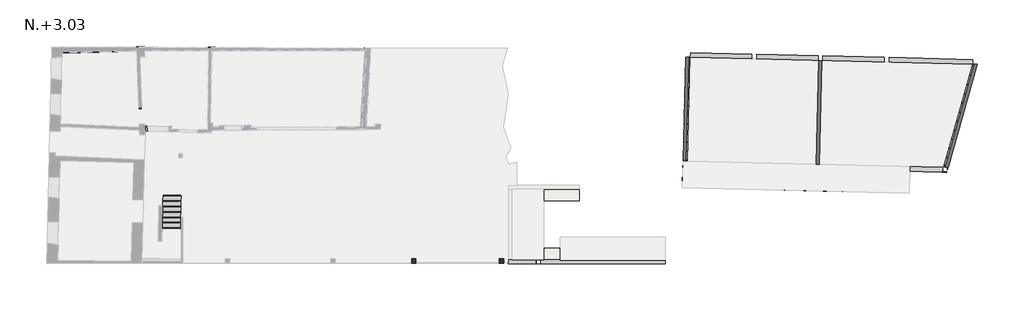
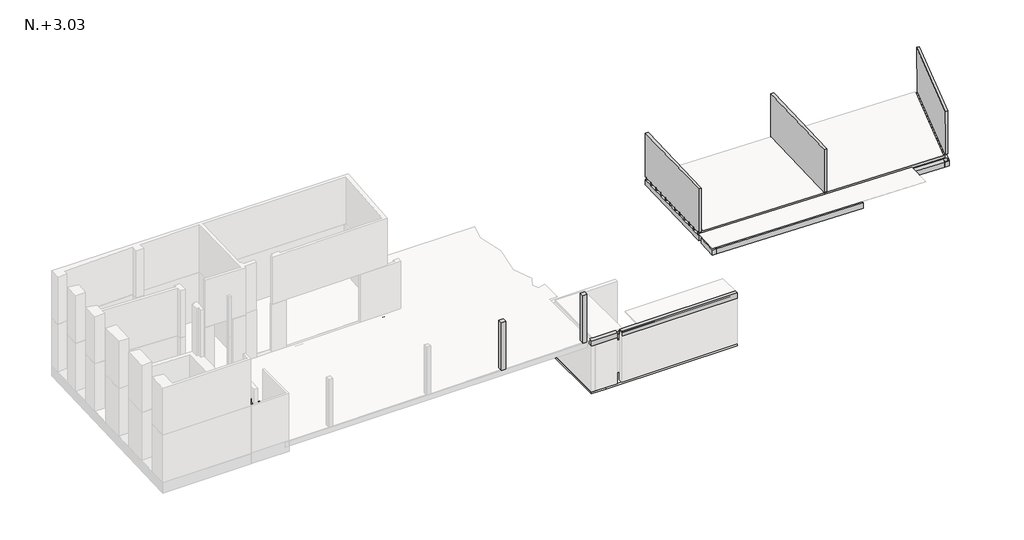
# One storey, part 2 of 2: 28 beams, 3 footings, 3 proxies, 2 columns, 1 stair flight.
"""IFC4 building model written with IfcOpenShell, lengths in millimetres."""

from ifc_helpers import new_model, si_unit, frame, origin, origin_with_axes, place, context, project, spatial, polyline, outline, extrude, faceted_brep, transform, mapped, element, save
from components import stair_flight_34b09c1e

model = new_model("IFC4")

# Units and contexts
model_context = context("Model", 3, world=origin())
ifc_project = project(units=[si_unit("LENGTHUNIT", "METRE", prefix="MILLI")], contexts=[model_context])

# Site, building, storey
site = spatial("IfcSite", under=ifc_project)
building = spatial("IfcBuilding", under=site)
storey = spatial("IfcBuildingStorey", under=building, Name="N.+3.03", Elevation=0.0)

# Beams
placement = place(None, origin())
element("IfcBeam", 1, ObjectType="M_Hormigón-Viga rectangular : VG-104.(25X30)", at=placement, inside=storey, context=model_context, shape_type="SweptSolid", body=[
    extrude(outline(polyline([(25302.2053798, 3850.4173044), (25502.2053798, 3850.4173044), (25502.2053798, 247.1625283), (25302.2053798, 247.1625283), (25302.2053798, 3850.4173044)])), frame((0.0, 0.0, -300.0), z_axis=(0.0, 0.0, 1.0), x_axis=(1.0, 0.0, 0.0)), (0.0, 0.0, 1.0), 200.0),
])
element("IfcBeam", 2, ObjectType="M_Hormigón-Viga rectangular : VG-102.(25X30)", at=placement, inside=storey, context=model_context, shape_type="SweptSolid", body=[
    extrude(outline(polyline([(25279.5548544, 202.4278622), (25279.5548544, -2.5721378), (23848.883946, -2.5721378), (23848.883946, 202.4278622), (25279.5548544, 202.4278622)])), frame((0.0, 0.0, -300.0), z_axis=(0.0, 0.0, 1.0), x_axis=(1.0, 0.0, 0.0)), (0.0, 0.0, 1.0), 300.0),
])
element("IfcBeam", 3, ObjectType="M_Hormigón-Viga rectangular : VG-102.(25X30)", at=placement, inside=storey, context=model_context, shape_type="SweptSolid", body=[
    extrude(outline(polyline([(196.7471083, 0.0), (196.7471083, -300.0), (194.2471083, -300.0), (194.2471083, -80.0), (-5.7528917, -80.0), (-5.7528917, -300.0), (-8.2528917, -300.0), (-8.2528917, 0.0), (196.7471083, 0.0)])), frame((25521.8899375, 0.0, 0.0), z_axis=(1.0, 0.0, 0.0), x_axis=(0.0, 1.0, 0.0)), (0.0, 0.0, 1.0), 6436.5642972),
])
element("IfcBeam", 4, ObjectType="Concrete-Rectangular Beam : VC-101(48X60)", at=placement, inside=storey, context=model_context, shape_type="Brep", body=[
    faceted_brep([(16718.8356546, 10664.9129167, 0.0), (16721.0421534, 11144.9078452, 0.0), (276.7725886, 11220.5008547, 0.0), (805.0367452, 10738.0673945, 0.0), (16718.8356546, 10664.9129167, -600.0), (805.0368088, 10738.0673942, -600.0), (16721.0421534, 11144.9078452, -600.0), (276.7726522, 11220.5008544, -600.0)], [[[0, 1, 2, 3]], [[4, 0, 3, 5]], [[6, 4, 5, 7]], [[1, 6, 7, 2]], [[1, 0, 4, 6]], [[2, 7, 5, 3]]]),
])
element("IfcBeam", 5, ObjectType="Concrete-Rectangular Beam : VC-106(41X60)", at=placement, inside=storey, context=model_context, shape_type="Brep", body=[
    faceted_brep([(4786.4012665, 7296.2895543, 0.0), (4799.8150795, 7279.1544178, 0.0), (5214.7123214, 6749.1544178, 0.0), (5215.2135312, 6748.51416, 0.0), (5215.1918183, 6749.1544178, 0.0), (5197.2180635, 7279.1544178, 0.0), (5064.3025356, 11198.4929573, 0.0), (4654.0028748, 11200.3790725, 0.0), (4786.4012643, 7296.2896197, -600.0), (4654.0028748, 11200.3790725, -600.0), (5215.2135289, 6748.5142254, -600.0), (5214.7123704, 6749.1544178, -600.0), (4799.8151285, 7279.1544178, -600.0), (5064.3025356, 11198.4929573, -600.0), (5197.2180635, 7279.1544178, -600.0), (5215.1918183, 6749.1544178, -600.0)], [[[0, 1, 2, 3, 4, 5, 6, 7]], [[8, 0, 7, 9]], [[10, 11, 12, 8, 9, 13, 14, 15]], [[3, 10, 15, 14, 13, 6, 5, 4]], [[7, 6, 13, 9]], [[3, 2, 1, 0, 8, 12, 11, 10]]]),
])
element("IfcBeam", 6, ObjectType="Concrete-Rectangular Beam : VC-107(41X60)", at=placement, inside=storey, context=model_context, shape_type="SweptSolid", body=[
    extrude(outline(polyline([(8693.7203401, 6749.1544178), (8283.6850677, 6749.1544178), (8341.8514519, 11183.4263236), (8751.8620007, 11181.5415375), (8693.7203401, 6749.1544178)])), frame((0.0, 0.0, -600.0), z_axis=(0.0, 0.0, 1.0), x_axis=(1.0, 0.0, 0.0)), (0.0, 0.0, 1.0), 600.0),
])
element("IfcBeam", 7, ObjectType="Concrete-Rectangular Beam : VC-108(35X60)", at=placement, inside=storey, context=model_context, shape_type="SweptSolid", body=[
    extrude(outline(polyline([(16396.619068, 11146.3991925), (16747.1320039, 11144.7879122), (16487.9387103, 6749.1544178), (16137.3307635, 6749.1544178), (16396.619068, 11146.3991925)])), frame((0.0, 0.0, -600.0), z_axis=(0.0, 0.0, 1.0), x_axis=(1.0, 0.0, 0.0)), (0.0, 0.0, 1.0), 600.0),
])
element("IfcBeam", 8, ObjectType="Concrete-Rectangular Beam : VGT-101(18X03) (EN MADERA)", at=placement, inside=storey, context=model_context, shape_type="SweptSolid", body=[
    extrude(outline(polyline([(0.0, -30.0000001), (0.0, 0.0), (14997.5858359, 0.0), (14997.5858359, -30.0), (0.0, -30.0000001)])), frame((47998.5656137, 10202.3134157, -179.9998399), z_axis=(0.0013331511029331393, -3.253150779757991e-05, 0.9999991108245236), x_axis=(-0.9997015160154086, 0.024394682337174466, 0.0013335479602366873)), (0.0, 0.0, 1.0), 180.0),
])
element("IfcBeam", 9, ObjectType="Concrete-Rectangular Beam : VGT-101(18X03) (EN MADERA)", at=placement, inside=storey, context=model_context, shape_type="SweptSolid", body=[
    extrude(outline(polyline([(14.9999999, 1e-07), (-15.0, 0.0), (-15.0, 14860.013459), (15.0, 14860.013459), (14.9999999, 1e-07)])), frame((47849.2156098, 9725.8328223, -179.999837), z_axis=(0.0013454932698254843, -3.2832680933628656e-05, 0.9999990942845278), x_axis=(0.024394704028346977, 0.9997024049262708, 0.0)), (0.0, 0.0, 1.0), 180.0),
])
element("IfcBeam", 10, ObjectType="Concrete-Rectangular Beam : VGT-101(18X03) (EN MADERA)", at=placement, inside=storey, context=model_context, shape_type="SweptSolid", body=[
    extrude(outline(polyline([(15.0, 0.0), (-15.0, -1e-07), (-15.0, 14720.0135869), (15.0, 14720.0135869), (15.0, 0.0)])), frame((47697.1800267, 9234.413297, -179.9998339), z_axis=(0.001358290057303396, -3.314494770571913e-05, 0.9999990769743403), x_axis=(0.02439470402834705, 0.9997024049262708, 0.0)), (0.0, 0.0, 1.0), 180.0),
])
element("IfcBeam", 11, ObjectType="Concrete-Rectangular Beam : VGT-101(18X03) (EN MADERA)", at=placement, inside=storey, context=model_context, shape_type="SweptSolid", body=[
    extrude(outline(polyline([(15.0, 0.0), (-14.9999999, -1e-07), (-15.0, 14580.0137173), (15.0, 14580.0137173), (15.0, 0.0)])), frame((47545.6991933, 8758.1097271, -179.9998306), z_axis=(0.001371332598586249, -3.34632113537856e-05, 0.9999990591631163), x_axis=(0.02439470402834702, 0.9997024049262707, 0.0)), (0.0, 0.0, 1.0), 180.0),
])
element("IfcBeam", 12, ObjectType="Concrete-Rectangular Beam : VGT-101(18X03) (EN MADERA)", at=placement, inside=storey, context=model_context, shape_type="SweptSolid", body=[
    extrude(outline(polyline([(15.0, 1e-07), (-14.9999999, 0.0), (-15.0, 14460.0138313), (15.0000001, 14460.0138313), (15.0, 1e-07)])), frame((47414.2707575, 8291.3168393, -179.9998278), z_axis=(0.0013827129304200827, -3.3740913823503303e-05, 0.9999990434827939), x_axis=(0.02439470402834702, 0.9997024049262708, 0.0)), (0.0, 0.0, 1.0), 180.0),
])
element("IfcBeam", 13, ObjectType="Concrete-Rectangular Beam : VGT-101(18X03) (EN MADERA)", at=placement, inside=storey, context=model_context, shape_type="SweptSolid", body=[
    extrude(outline(polyline([(15.0, 0.0), (-14.9999999, -1e-07), (-15.0, 14320.0139665), (15.0, 14320.0139665), (15.0, 0.0)])), frame((47262.8478887, 7825.011855, -179.9998244), z_axis=(0.0013962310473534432, -3.407078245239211e-05, 0.9999990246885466), x_axis=(0.024394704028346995, 0.9997024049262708, 0.0)), (0.0, 0.0, 1.0), 180.0),
])
element("IfcBeam", 14, ObjectType="Concrete-Rectangular Beam : VGT-101(18X03) (EN MADERA)", at=placement, inside=storey, context=model_context, shape_type="SweptSolid", body=[
    extrude(outline(polyline([(15.0, 0.0), (-15.0, 0.0), (-15.0, 14190.0), (15.0, 14190.0), (15.0, 0.0)])), frame((47122.6398902, 7348.2903177, -179.9998212), z_axis=(0.001409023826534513, -3.438295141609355e-05, 0.9999990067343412), x_axis=(0.02439470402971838, 0.9997024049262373, 0.0)), (0.0, 0.0, 1.0), 180.0),
])
element("IfcBeam", 15, ObjectType="Concrete-Rectangular Beam : VGT-101(18X03) (EN MADERA)", at=placement, inside=storey, context=model_context, shape_type="SweptSolid", body=[
    extrude(outline(polyline([(15.0, 0.0), (-15.0, -1e-07), (-15.0000001, 14060.0142247), (15.0, 14060.0142247), (15.0, 0.0)])), frame((46979.9964183, 6891.913987, -179.9998179), z_axis=(0.001422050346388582, -3.470082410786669e-05, 0.9999989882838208), x_axis=(0.024394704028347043, 0.9997024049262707, 0.0)), (0.0, 0.0, 1.0), 180.0),
])
element("IfcBeam", 16, ObjectType="Concrete-Rectangular Beam : VGT-101(18X03) (EN MADERA)", at=placement, inside=storey, context=model_context, shape_type="SweptSolid", body=[
    extrude(outline(polyline([(15.0, 0.0), (-15.0, 0.0), (-15.0, 13920.0143678), (15.0000001, 13920.0143678), (15.0, 0.0)])), frame((46828.329534, 6415.6149571, -179.9998142), z_axis=(0.0014363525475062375, -3.504982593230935e-05, 0.9999989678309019), x_axis=(0.024394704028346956, 0.9997024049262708, 0.0)), (0.0, 0.0, 1.0), 180.0),
])
element("IfcBeam", 17, ObjectType="Concrete-Rectangular Beam : VGT-101(18X03) (EN MADERA)", at=placement, inside=storey, context=model_context, shape_type="SweptSolid", body=[
    extrude(outline(polyline([(15.0, 1e-07), (-15.0, 0.0), (-15.0, 13800.0144928), (15.0, 13800.0144927), (15.0, 1e-07)])), frame((46696.9008984, 5948.8220742, -179.999811), z_axis=(0.0014488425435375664, -3.535460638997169e-05, 0.9999989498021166), x_axis=(0.024394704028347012, 0.9997024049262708, 0.0)), (0.0, 0.0, 1.0), 180.0),
])
element("IfcBeam", 18, ObjectType="Concrete-Rectangular Beam : VGT-101(18X03) (EN MADERA)", at=placement, inside=storey, context=model_context, shape_type="SweptSolid", body=[
    extrude(outline(polyline([(0.0, -30.0), (0.0, 0.0), (13660.0146413, 0.0), (13660.0146413, -29.9999999), (0.0, -30.0)])), frame((46545.1118695, 5467.5215597, -179.9998071), z_axis=(0.001463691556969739, -3.571695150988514e-05, 0.9999989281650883), x_axis=(-0.9997013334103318, 0.024394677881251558, 0.001464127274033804)), (0.0, 0.0, 1.0), 180.0),
])
element("IfcBeam", 19, ObjectType="Concrete-Rectangular Beam : VGT-101(18X03) (EN MADERA)", at=placement, inside=storey, context=model_context, shape_type="SweptSolid", body=[
    extrude(outline(polyline([(14.9999999, 0.0), (-15.0, -1e-07), (-15.0000001, 13540.014771), (15.0, 13540.014771), (14.9999999, 0.0)])), frame((46415.2355417, 5064.3462838, -179.9998036), z_axis=(0.00147666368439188, -3.6033496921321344e-05, 0.9999989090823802), x_axis=(0.024394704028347, 0.9997024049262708, 0.0)), (0.0, 0.0, 1.0), 180.0),
])
element("IfcBeam", 20, ObjectType="M_Hormigón-Viga rectangular : VG-101(25X30)", at=placement, inside=storey, context=model_context, shape_type="Brep", body=[
    faceted_brep([(47843.6755126, 10301.0975039, -180.0), (47849.7741886, 10551.0231052, -180.0), (43521.0627753, 10656.6521736, -180.0), (43514.9640993, 10406.7265724, -180.0), (47807.743374, 10301.9743187, -180.0), (47843.6755126, 10301.0975039, -480.0), (43514.9640993, 10406.7265724, -480.0), (47807.743374, 10301.9743187, -480.0), (47849.7741886, 10551.0231052, -480.0), (43521.0627753, 10656.6521736, -480.0)], [[[0, 1, 2, 3, 4]], [[5, 0, 4, 3, 6, 7]], [[8, 5, 7, 6, 9]], [[1, 8, 9, 2]], [[1, 0, 5, 8]], [[3, 2, 9, 6]]]),
    faceted_brep([(33258.0174247, 10657.0162357, -180.0), (33264.1161008, 10906.9418369, -180.0), (33264.1161008, 10906.9418369, -480.0), (33258.0174247, 10657.0162357, -480.0), (36433.1727244, 10829.6106252, -180.0), (36427.0740484, 10579.6850239, -180.0), (36427.0740484, 10579.6850239, -480.0), (36433.1727244, 10829.6106252, -480.0)], [[[0, 1, 2, 3]], [[4, 5, 6, 7]], [[1, 0, 5, 4]], [[0, 3, 6, 5]], [[3, 2, 7, 6]], [[2, 1, 4, 7]]]),
    faceted_brep([(36676.9996496, 10573.5863479, -180.0), (36683.0983256, 10823.5119492, -180.0), (36683.0983256, 10823.5119492, -480.0), (36676.9996496, 10573.5863479, -480.0), (39852.1549492, 10746.1807374, -180.0), (39846.0562732, 10496.2551362, -180.0), (39846.0562732, 10496.2551362, -480.0), (39852.1549492, 10746.1807374, -480.0)], [[[0, 1, 2, 3]], [[4, 5, 6, 7]], [[1, 0, 5, 4]], [[0, 3, 6, 5]], [[3, 2, 7, 6]], [[2, 1, 4, 7]]]),
    faceted_brep([(40095.9818744, 10490.1564601, -180.0), (40102.0805504, 10740.0820614, -180.0), (40102.0805504, 10740.0820614, -480.0), (40095.9818744, 10490.1564601, -480.0), (43271.1371741, 10662.7508496, -180.0), (43265.0384981, 10412.8252484, -180.0), (43265.0384981, 10412.8252484, -480.0), (43271.1371741, 10662.7508496, -480.0)], [[[0, 1, 2, 3]], [[4, 5, 6, 7]], [[1, 0, 5, 4]], [[0, 3, 6, 5]], [[3, 2, 7, 6]], [[2, 1, 4, 7]]]),
])
element("IfcBeam", 21, ObjectType="M_Hormigón-Viga rectangular : VG-102(25X30)", at=placement, inside=storey, context=model_context, shape_type="Brep", body=[
    faceted_brep([(33127.5057587, 5308.6083716, -180.0), (33121.4070827, 5058.6827704, -180.0), (36290.463707, 4981.3515586, -180.0), (36296.562383, 5231.2771598, -180.0), (33127.5057587, 5308.6083716, -480.0), (36296.562383, 5231.2771598, -480.0), (33121.4070827, 5058.6827704, -480.0), (36290.463707, 4981.3515586, -480.0)], [[[0, 1, 2, 3]], [[4, 0, 3, 5]], [[6, 4, 5, 7]], [[1, 6, 7, 2]], [[1, 0, 4, 6]], [[3, 2, 7, 5]]]),
    faceted_brep([(46286.5557776, 4987.5016813, -480.0), (46286.5557776, 4987.5016813, -180.0), (46284.2145968, 4891.5593805, -180.0), (46284.2145968, 4891.5593805, -480.0), (43378.3537578, 4808.393107, -480.0), (43378.3537578, 4808.393107, -180.0), (43384.4524338, 5058.3187082, -180.0), (43384.4524338, 5058.3187082, -480.0), (46241.124424, 4738.5358747, -480.0), (46241.124424, 4738.5358747, -180.0)], [[[0, 1, 2, 3]], [[4, 5, 6, 7]], [[5, 4, 8, 9]], [[6, 5, 9, 2, 1]], [[1, 0, 7, 6]], [[4, 7, 0, 3, 8]], [[3, 2, 9, 8]]]),
    faceted_brep([(36540.3893082, 4975.2528826, -180.0), (36546.4879842, 5225.1784838, -180.0), (36546.4879842, 5225.1784838, -480.0), (36540.3893082, 4975.2528826, -480.0), (39709.4459318, 4897.9216708, -180.0), (39715.5446078, 5147.847272, -180.0), (39715.5446078, 5147.847272, -480.0), (39709.4459318, 4897.9216708, -480.0)], [[[0, 1, 2, 3]], [[1, 0, 4, 5]], [[2, 1, 5, 6]], [[3, 2, 6, 7]], [[0, 3, 7, 4]], [[4, 7, 6, 5]]]),
    faceted_brep([(39959.3715331, 4891.8229948, -480.0), (39959.3715331, 4891.8229948, -180.0), (39965.4702091, 5141.748596, -180.0), (39965.4702091, 5141.748596, -480.0), (43128.4281566, 4814.491783, -180.0), (43128.4281566, 4814.491783, -480.0), (43134.5268326, 5064.4173842, -480.0), (43134.5268326, 5064.4173842, -180.0), (40959.0586194, 4867.4286646, -480.0), (41158.9991004, 4862.5497238, -480.0), (41158.9991004, 4862.5497238, -180.0), (40959.0586194, 4867.4286646, -180.0)], [[[0, 1, 2, 3]], [[4, 5, 6, 7]], [[1, 0, 8, 9, 5, 4, 10, 11]], [[2, 1, 11, 10, 4, 7]], [[3, 2, 7, 6]], [[0, 3, 6, 5, 9, 8]]]),
])
element("IfcBeam", 22, ObjectType="M_Hormigón-Viga rectangular : VG-103(20X30)", at=placement, inside=storey, context=model_context, shape_type="Brep", body=[
    faceted_brep([(41131.1891378, 3722.8889821, -180.0), (41136.0680786, 3922.8294631, -180.0), (40936.1275976, 3927.7084039, -180.0), (39936.4405101, 3952.1027342, -180.0), (39686.5149089, 3958.2014102, -180.0), (36517.4582853, 4035.532622, -180.0), (36267.5326841, 4041.631298, -180.0), (33098.4760605, 4118.9625097, -180.0), (33093.5971197, 3919.0220287, -180.0), (41131.1891378, 3722.8889821, -480.0), (33093.5971197, 3919.0220287, -480.0), (41136.0680786, 3922.8294631, -480.0), (33098.4760605, 4118.9625097, -480.0), (36267.5326841, 4041.631298, -480.0), (36517.4582853, 4035.532622, -480.0), (39686.5149089, 3958.2014102, -480.0), (39936.4405101, 3952.1027342, -480.0), (40936.1275976, 3927.7084039, -480.0)], [[[0, 1, 2, 3, 4, 5, 6, 7, 8]], [[9, 0, 8, 10]], [[11, 9, 10, 12, 13, 14, 15, 16, 17]], [[1, 11, 17, 16, 15, 14, 13, 12, 7, 6, 5, 4, 3, 2]], [[8, 7, 12, 10]], [[1, 0, 9, 11]]]),
])
element("IfcBeam", 23, ObjectType="M_Hormigón-Viga rectangular : VG-104(25X30)", at=placement, inside=storey, context=model_context, shape_type="Brep", body=[
    faceted_brep([(33121.4067077, 5058.6674212, -180.0), (32871.4811065, 5064.7660972, -180.0), (32843.6715184, 3925.1207048, -180.0), (33093.5971197, 3919.0220287, -180.0), (33098.4760605, 4118.9625097, -180.0), (32871.4811065, 5064.7660972, -480.0), (32843.6715184, 3925.1207048, -480.0), (33121.4067077, 5058.6674212, -480.0), (33098.4760605, 4118.9625097, -480.0), (33093.5971197, 3919.0220287, -480.0)], [[[0, 1, 2, 3, 4]], [[1, 5, 6, 2]], [[5, 7, 8, 9, 6]], [[7, 0, 4, 3, 9, 8]], [[1, 0, 7, 5]], [[3, 2, 6, 9]]]),
    faceted_brep([(33127.5053837, 5308.5930224, -180.0), (32877.5797825, 5314.6916984, -180.0), (32877.5797825, 5314.6916984, -480.0), (33127.5053837, 5308.5930224, -480.0), (33008.0918235, 10663.1149117, -180.0), (33258.0174247, 10657.0162357, -180.0), (33258.0174247, 10657.0162357, -480.0), (33008.0918235, 10663.1149117, -480.0)], [[[0, 1, 2, 3]], [[4, 5, 6, 7]], [[1, 0, 5, 4]], [[2, 1, 4, 7]], [[3, 2, 7, 6]], [[0, 3, 6, 5]]]),
])
element("IfcBeam", 24, ObjectType="M_Hormigón-Viga rectangular : VG-104(25X30)", at=placement, inside=storey, context=model_context, shape_type="SweptSolid", body=[
    extrude(outline(polyline([(36290.4637058, 4981.3515569), (36540.3893071, 4975.2528809), (36517.4582853, 4035.532622), (36267.5326841, 4041.631298), (36290.4637058, 4981.3515569)])), frame((0.0, 0.0, -480.0), z_axis=(0.0, 0.0, 1.0), x_axis=(1.0, 0.0, 0.0)), (0.0, 0.0, 1.0), 300.0),
    extrude(outline(polyline([(36546.4879831, 5225.1784821), (36296.5623819, 5231.2771581), (36427.0740484, 10579.6850245), (36676.9996496, 10573.5863485), (36546.4879831, 5225.1784821)])), frame((0.0, 0.0, -480.0), z_axis=(0.0, 0.0, 1.0), x_axis=(1.0, 0.0, 0.0)), (0.0, 0.0, 1.0), 300.0),
])
element("IfcBeam", 25, ObjectType="M_Hormigón-Viga rectangular : VG-104(25X30)", at=placement, inside=storey, context=model_context, shape_type="SweptSolid", body=[
    extrude(outline(polyline([(39709.4459307, 4897.9216697), (39959.3715319, 4891.8229937), (39936.4405101, 3952.1027342), (39686.5149089, 3958.2014102), (39709.4459307, 4897.9216697)])), frame((0.0, 0.0, -480.0), z_axis=(0.0, 0.0, 1.0), x_axis=(1.0, 0.0, 0.0)), (0.0, 0.0, 1.0), 300.0),
    extrude(outline(polyline([(39846.0562732, 10496.2551369), (40095.9818744, 10490.1564609), (39965.4702079, 5141.7485949), (39715.5446067, 5147.8472709), (39846.0562732, 10496.2551369)])), frame((0.0, 0.0, -480.0), z_axis=(0.0, 0.0, 1.0), x_axis=(1.0, 0.0, 0.0)), (0.0, 0.0, 1.0), 300.0),
])
element("IfcBeam", 26, ObjectType="M_Hormigón-Viga rectangular : VG-104(25X30)", at=placement, inside=storey, context=model_context, shape_type="SweptSolid", body=[
    extrude(outline(polyline([(43265.0384981, 10412.8252499), (43514.9640994, 10406.7265739), (43384.4524328, 5058.3187083), (43134.5268316, 5064.4173843), (43265.0384981, 10412.8252499)])), frame((0.0, 0.0, -480.0), z_axis=(0.0, 0.0, 1.0), x_axis=(1.0, 0.0, 0.0)), (0.0, 0.0, 1.0), 300.0),
])
element("IfcBeam", 27, ObjectType="M_Hormigón-Viga rectangular : VG-105(25X30)", at=placement, inside=storey, context=model_context, shape_type="Brep", body=[
    faceted_brep([(46241.124424, 4738.5358747, -180.0), (46499.0746316, 4732.2413826, -180.0), (46502.8000284, 4745.471157, -180.0), (46280.7819589, 4750.8888344, -180.0), (46284.2145968, 4891.5593805, -180.0), (46241.124424, 4738.5358747, -480.0), (46284.2145968, 4891.5593805, -480.0), (46499.0746316, 4732.2413826, -480.0), (46280.7819589, 4750.8888344, -480.0), (46502.8000284, 4745.471157, -480.0)], [[[0, 1, 2, 3, 4]], [[5, 0, 4, 6]], [[7, 5, 6, 8, 9]], [[1, 7, 9, 2]], [[1, 0, 5, 7]], [[8, 3, 2, 9]], [[3, 8, 6, 4]]]),
    faceted_brep([(47807.743374, 10301.9743187, -480.0), (47807.743374, 10301.9743187, -180.0), (47843.6755126, 10301.0975039, -180.0), (48065.6935821, 10295.6798266, -180.0), (48065.6935821, 10295.6798266, -480.0), (47843.6755126, 10301.0975039, -480.0), (46536.8062362, 4994.7157596, -180.0), (46536.8062362, 4994.7157596, -480.0), (46533.3735983, 4854.0452135, -480.0), (46533.3735983, 4854.0452135, -180.0), (46314.7881667, 5000.1334369, -180.0), (46314.7881667, 5000.1334369, -480.0)], [[[0, 1, 2, 3, 4, 5]], [[6, 7, 8, 9]], [[7, 6, 10, 11]], [[3, 2, 1, 10, 6, 9]], [[1, 0, 11, 10]], [[0, 5, 4, 8, 7, 11]], [[4, 3, 9, 8]]]),
])
element("IfcBeam", 28, ObjectType="M_Hormigón-Viga rectangular : VG-106(20X35)", at=placement, inside=storey, context=model_context, shape_type="SweptSolid", body=[
    extrude(outline(polyline([(41136.0680786, 3922.8294631), (40936.1275976, 3927.7084039), (40959.0586194, 4867.4286646), (41158.9991004, 4862.5497238), (41136.0680786, 3922.8294631)])), frame((0.0, 0.0, -480.0), z_axis=(0.0, 0.0, 1.0), x_axis=(1.0, 0.0, 0.0)), (0.0, 0.0, 1.0), 300.0),
])

# Proxies
element("IfcBuildingElementProxy", 29, Name="Masa 23 : Masa 23", ObjectType="Masa 23 : Masa 23", at=placement, inside=storey, context=model_context, shape_type="SweptSolid", body=[
    extrude(outline(polyline([(40045.9967542, 10491.3761961), (39915.4850877, 5142.9683301), (39765.5297269, 5146.6275357), (39896.0413935, 10495.0354017), (40045.9967542, 10491.3761961)])), origin_with_axes(), (0.0, 0.0, 1.0), 2570.0),
])
element("IfcBuildingElementProxy", 30, Name="Masa 24 : Masa 23", ObjectType="Masa 24 : Masa 23", at=placement, inside=storey, context=model_context, shape_type="SweptSolid", body=[
    extrude(outline(polyline([(33158.0471843, 10659.4557068), (33027.5355177, 5311.0478409), (32877.580157, 5314.7070465), (33008.0918235, 10663.1149124), (33158.0471843, 10659.4557068)])), origin_with_axes(), (0.0, 0.0, 1.0), 2570.0),
])
element("IfcBuildingElementProxy", 31, Name="Masa 25 : Masa 25", ObjectType="Masa 25 : Masa 25", at=placement, inside=storey, context=model_context, shape_type="Brep", body=[
    faceted_brep([(48064.4928088, 10291.4155949, 40.0), (47914.5009311, 10289.8546208, 40.0), (47931.4470186, 10350.0342289, 2570.0), (48081.4388962, 10351.595203, 2570.0), (46426.0695843, 5004.0790492, 40.0), (46420.3404821, 4983.7336376, 2570.0), (46576.061462, 5005.6400233, 40.0), (46570.3323598, 4985.2946117, 2570.0)], [[[0, 1, 2, 3]], [[1, 4, 5, 2]], [[4, 6, 7, 5]], [[6, 0, 3, 7]], [[7, 3, 2, 5]], [[0, 6, 4, 1]]]),
])

# Columns
element("IfcColumn", 32, ObjectType="Concrete-Rectangular-Column : COLUMNA PATIO", at=placement, inside=storey, context=model_context, shape_type="Brep", body=[
    faceted_brep([(19080.3822296, 24.8550464, 0.0), (18850.3822296, 24.8550464, 0.0), (18850.3822296, 66.0947641, 0.0), (19080.3822296, 66.901209, 0.0), (19080.3822296, 254.8550464, 2820.0), (19080.3822296, 24.8550464, 2820.0), (19080.3822296, 66.901209, 10.0), (19080.3822296, 254.8550464, 10.0), (18850.3822296, 24.8550464, 2820.0), (18850.3822296, 254.8550464, 2820.0), (18850.3822296, 254.8550464, 10.0), (18850.3822296, 66.0947641, 10.0)], [[[0, 1, 2, 3]], [[4, 5, 0, 3, 6, 7]], [[1, 0, 5, 8]], [[1, 8, 9, 10, 11, 2]], [[9, 4, 7, 10]], [[5, 4, 9, 8]], [[6, 11, 10, 7]], [[11, 6, 3, 2]]]),
])
element("IfcColumn", 33, ObjectType="Concrete-Rectangular-Column : COLUMNA PATIO", at=placement, inside=storey, context=model_context, shape_type="Brep", body=[
    faceted_brep([(23619.390492, 37.8142238, 0.0), (23389.390492, 37.8142238, 0.0), (23389.390492, 82.009809, 0.0), (23619.390492, 82.8162539, 0.0), (23619.390492, 267.8142238, 2820.0), (23619.390492, 37.8142238, 2820.0), (23619.390492, 82.8162539, 10.0), (23619.390492, 267.8142238, 10.0), (23389.390492, 37.8142238, 2820.0), (23389.390492, 267.8142238, 2820.0), (23389.390492, 267.8142238, 10.0), (23389.390492, 82.009809, 10.0)], [[[0, 1, 2, 3]], [[4, 5, 0, 3, 6, 7]], [[1, 0, 5, 8]], [[1, 8, 9, 10, 11, 2]], [[9, 4, 7, 10]], [[5, 4, 9, 8]], [[6, 11, 10, 7]], [[11, 6, 3, 2]]]),
])

# Footings
element("IfcFooting", 34, ObjectType="ZARPA", at=placement, inside=storey, context=model_context, shape_type="SweptSolid", body=[
    extrude(outline(polyline([(24648.883946, 3252.2642525), (23848.883946, 4049.7885511), (27510.1194507, 4061.1362943), (27512.5989828, 3261.1401368), (24648.883946, 3252.2642525)])), frame((0.0, 0.0, -3100.0), z_axis=(0.0, 0.0, 1.0), x_axis=(1.0, 0.0, 0.0)), (0.0, 0.0, 1.0), 100.0),
])
element("IfcFooting", 35, ObjectType="ZARPA", at=placement, inside=storey, context=model_context, shape_type="Brep", body=[
    faceted_brep([(23848.883946, -5.7528917, -3000.0), (23848.883946, -5.7528917, -3100.0), (24648.883946, -5.7528917, -3100.0), (24648.883946, -5.7528917, -3000.0), (23848.883946, 4049.7885511, -3000.0), (24648.883946, 794.2471083, -3000.0), (24648.883946, 3252.2642525, -3000.0), (23848.883946, 4049.7885511, -3100.0), (24648.883946, 3252.2642525, -3100.0), (24648.883946, 794.2471083, -3100.0)], [[[0, 1, 2, 3]], [[4, 0, 3, 5, 6]], [[1, 0, 4, 7]], [[2, 1, 7, 8, 9]], [[3, 2, 9, 8, 6, 5]], [[4, 6, 8, 7]]]),
])
element("IfcFooting", 36, ObjectType="ZARPA", at=placement, inside=storey, context=model_context, shape_type="SweptSolid", body=[
    extrude(outline(polyline([(31958.4542347, 794.2471083), (31958.4542347, -5.7528917), (24648.883946, -5.7528917), (24648.883946, 794.2471083), (31958.4542347, 794.2471083)])), frame((0.0, 0.0, -3100.0), z_axis=(0.0, 0.0, 1.0), x_axis=(1.0, 0.0, 0.0)), (0.0, 0.0, 1.0), 100.0),
])

# Stair flight
stair_flight_shape = stair_flight_34b09c1e(model_context)
element("IfcStairFlight", 37, ObjectType="Huella 50 mm Contrahuella 13 mm", at=placement, inside=storey, context=model_context, shape_type="MappedRepresentation", body=[
    mapped(stair_flight_shape, transform((0.0, 0.0, 0.0), x_axis=(1.0, 0.0, 0.0), y_axis=(0.0, 1.0, 0.0), z_axis=(0.0, 0.0, 1.0))),
])

save(model, "model.ifc")
